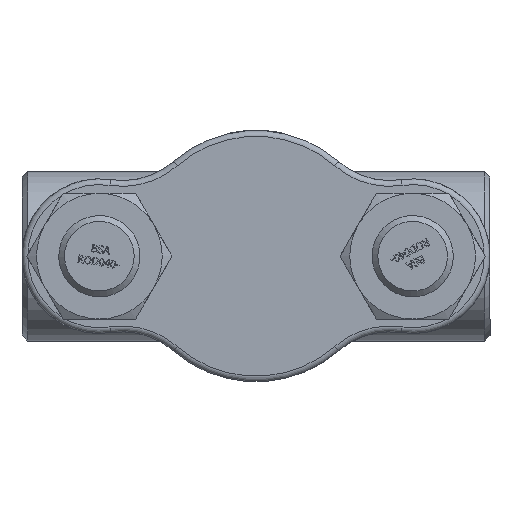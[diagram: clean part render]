
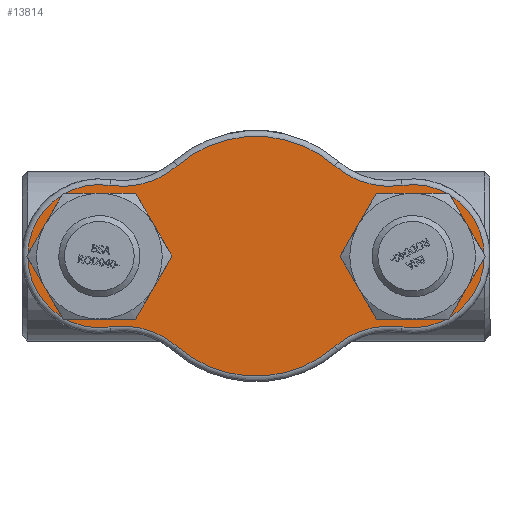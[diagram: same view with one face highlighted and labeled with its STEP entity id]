
A CAD part, front view. The second image highlights one B-rep face of the part: STEP entity #13814.
In plain terms, the highlighted planar face has unit normal (0, -1, 0) as drawn and (0, 0, -1) by its records, which use the part's own axes.
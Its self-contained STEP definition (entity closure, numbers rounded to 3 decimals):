
#3602=PLANE('',#14719);
#4001=FACE_BOUND('',#4916,.T.);
#4002=FACE_BOUND('',#4917,.T.);
#4099=FACE_OUTER_BOUND('',#4915,.T.);
#4915=EDGE_LOOP('',(#9545,#9546,#9547,#9548,#9549,#9550,#9551,#9552));
#4916=EDGE_LOOP('',(#9553));
#4917=EDGE_LOOP('',(#9554));
#5827=CIRCLE('',#14718,25.);
#5828=CIRCLE('',#14720,37.);
#5829=CIRCLE('',#14721,43.);
#5830=CIRCLE('',#14722,62.);
#5831=CIRCLE('',#14723,43.);
#5832=CIRCLE('',#14724,37.);
#5833=CIRCLE('',#14725,43.);
#5834=CIRCLE('',#14726,62.);
#5835=CIRCLE('',#14727,43.);
#5836=CIRCLE('',#14728,25.);
#6013=VERTEX_POINT('',#18092);
#6014=VERTEX_POINT('',#18095);
#6015=VERTEX_POINT('',#18096);
#6016=VERTEX_POINT('',#18098);
#6017=VERTEX_POINT('',#18100);
#6018=VERTEX_POINT('',#18102);
#6019=VERTEX_POINT('',#18104);
#6020=VERTEX_POINT('',#18106);
#6021=VERTEX_POINT('',#18108);
#6022=VERTEX_POINT('',#18111);
#7419=EDGE_CURVE('',#6013,#6013,#5827,.T.);
#7420=EDGE_CURVE('',#6014,#6015,#5828,.T.);
#7421=EDGE_CURVE('',#6016,#6014,#5829,.T.);
#7422=EDGE_CURVE('',#6017,#6016,#5830,.T.);
#7423=EDGE_CURVE('',#6018,#6017,#5831,.T.);
#7424=EDGE_CURVE('',#6019,#6018,#5832,.T.);
#7425=EDGE_CURVE('',#6020,#6019,#5833,.T.);
#7426=EDGE_CURVE('',#6021,#6020,#5834,.T.);
#7427=EDGE_CURVE('',#6015,#6021,#5835,.T.);
#7428=EDGE_CURVE('',#6022,#6022,#5836,.T.);
#9545=ORIENTED_EDGE('',*,*,#7420,.F.);
#9546=ORIENTED_EDGE('',*,*,#7421,.F.);
#9547=ORIENTED_EDGE('',*,*,#7422,.F.);
#9548=ORIENTED_EDGE('',*,*,#7423,.F.);
#9549=ORIENTED_EDGE('',*,*,#7424,.F.);
#9550=ORIENTED_EDGE('',*,*,#7425,.F.);
#9551=ORIENTED_EDGE('',*,*,#7426,.F.);
#9552=ORIENTED_EDGE('',*,*,#7427,.F.);
#9553=ORIENTED_EDGE('',*,*,#7428,.F.);
#9554=ORIENTED_EDGE('',*,*,#7419,.F.);
#13814=ADVANCED_FACE('',(#4099,#4001,#4002),#3602,.F.);
#14718=AXIS2_PLACEMENT_3D('',#18093,#15444,#15445);
#14719=AXIS2_PLACEMENT_3D('',#18094,#15446,#15447);
#14720=AXIS2_PLACEMENT_3D('',#18097,#15448,#15449);
#14721=AXIS2_PLACEMENT_3D('',#18099,#15450,#15451);
#14722=AXIS2_PLACEMENT_3D('',#18101,#15452,#15453);
#14723=AXIS2_PLACEMENT_3D('',#18103,#15454,#15455);
#14724=AXIS2_PLACEMENT_3D('',#18105,#15456,#15457);
#14725=AXIS2_PLACEMENT_3D('',#18107,#15458,#15459);
#14726=AXIS2_PLACEMENT_3D('',#18109,#15460,#15461);
#14727=AXIS2_PLACEMENT_3D('',#18110,#15462,#15463);
#14728=AXIS2_PLACEMENT_3D('',#18112,#15464,#15465);
#15444=DIRECTION('center_axis',(0.,0.,-1.));
#15445=DIRECTION('ref_axis',(1.,0.,0.));
#15446=DIRECTION('center_axis',(0.,0.,1.));
#15447=DIRECTION('ref_axis',(1.,0.,0.));
#15448=DIRECTION('center_axis',(0.,0.,1.));
#15449=DIRECTION('ref_axis',(-1.,0.,0.));
#15450=DIRECTION('center_axis',(0.,0.,-1.));
#15451=DIRECTION('ref_axis',(0.28,-0.96,0.));
#15452=DIRECTION('center_axis',(0.,0.,1.));
#15453=DIRECTION('ref_axis',(0.,1.,0.));
#15454=DIRECTION('center_axis',(0.,0.,-1.));
#15455=DIRECTION('ref_axis',(-0.28,-0.96,0.));
#15456=DIRECTION('center_axis',(0.,0.,1.));
#15457=DIRECTION('ref_axis',(1.,0.,0.));
#15458=DIRECTION('center_axis',(0.,0.,-1.));
#15459=DIRECTION('ref_axis',(-0.28,0.96,0.));
#15460=DIRECTION('center_axis',(0.,0.,1.));
#15461=DIRECTION('ref_axis',(0.,-1.,0.));
#15462=DIRECTION('center_axis',(0.,0.,-1.));
#15463=DIRECTION('ref_axis',(0.28,0.96,0.));
#15464=DIRECTION('center_axis',(0.,0.,-1.));
#15465=DIRECTION('ref_axis',(1.,0.,0.));
#18092=CARTESIAN_POINT('',(56.,0.,0.));
#18093=CARTESIAN_POINT('Origin',(81.,0.,0.));
#18094=CARTESIAN_POINT('Origin',(0.,0.,
0.));
#18095=CARTESIAN_POINT('',(-75.473,36.585,0.));
#18096=CARTESIAN_POINT('',(-75.473,-36.585,0.));
#18097=CARTESIAN_POINT('Origin',(-81.,0.,0.));
#18098=CARTESIAN_POINT('',(-40.772,46.708,0.));
#18099=CARTESIAN_POINT('Origin',(-69.049,79.102,0.));
#18100=CARTESIAN_POINT('',(40.772,46.708,0.));
#18101=CARTESIAN_POINT('Origin',(0.,0.,0.));
#18102=CARTESIAN_POINT('',(75.473,36.585,0.));
#18103=CARTESIAN_POINT('Origin',(69.049,79.102,0.));
#18104=CARTESIAN_POINT('',(75.473,-36.585,0.));
#18105=CARTESIAN_POINT('Origin',(81.,0.,0.));
#18106=CARTESIAN_POINT('',(40.772,-46.708,0.));
#18107=CARTESIAN_POINT('Origin',(69.049,-79.102,0.));
#18108=CARTESIAN_POINT('',(-40.772,-46.708,0.));
#18109=CARTESIAN_POINT('Origin',(0.,0.,0.));
#18110=CARTESIAN_POINT('Origin',(-69.049,-79.102,0.));
#18111=CARTESIAN_POINT('',(-106.,0.,0.));
#18112=CARTESIAN_POINT('Origin',(-81.,0.,0.));
